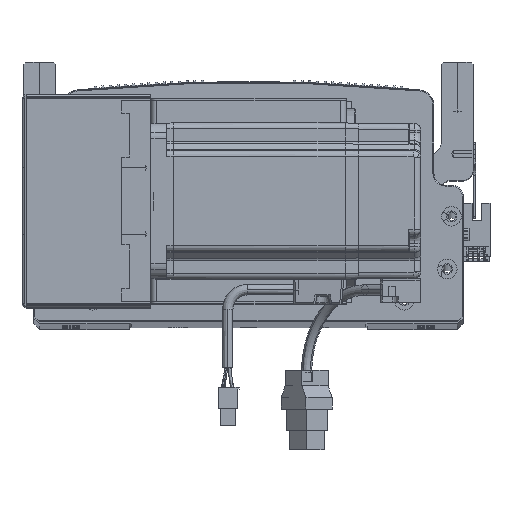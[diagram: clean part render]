
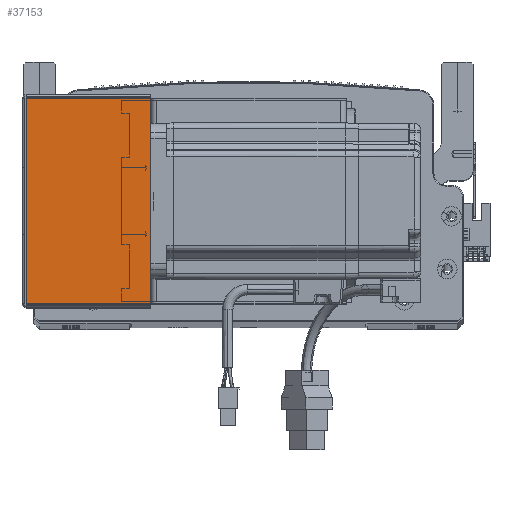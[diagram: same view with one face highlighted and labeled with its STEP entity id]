
A CAD part, top view. The second image highlights one B-rep face of the part: STEP entity #37153.
In plain terms, the highlighted planar face has unit normal (0, 0, 1) as drawn and (0, 0, -1) by its records, which use the part's own axes.
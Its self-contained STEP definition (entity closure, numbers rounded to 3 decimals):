
#248 = ORIENTED_EDGE ( 'NONE', *, *, #59672, .T. ) ;
#489 = DIRECTION ( 'NONE',  ( 0., -1., 0. ) ) ;
#2702 = CARTESIAN_POINT ( 'NONE',  ( 0., 0.707, -205.5 ) ) ;
#8278 = CARTESIAN_POINT ( 'NONE',  ( 64.5, 0.707, -205.5 ) ) ;
#13404 = EDGE_CURVE ( 'NONE', #21411, #25212, #47081, .T. ) ;
#13546 = CARTESIAN_POINT ( 'NONE',  ( 0.737, 105.293, -205.5 ) ) ;
#13981 = VECTOR ( 'NONE', #34855, 1000. ) ;
#18923 = CARTESIAN_POINT ( 'NONE',  ( 0., 0., -205.5 ) ) ;
#21411 = VERTEX_POINT ( 'NONE', #83418 ) ;
#22432 = LINE ( 'NONE', #62837, #36459 ) ;
#23680 = LINE ( 'NONE', #33947, #13981 ) ;
#24346 = VECTOR ( 'NONE', #85007, 1000. ) ;
#25212 = VERTEX_POINT ( 'NONE', #8278 ) ;
#26120 = DIRECTION ( 'NONE',  ( 0., 0., 1. ) ) ;
#29713 = DIRECTION ( 'NONE',  ( 0., -1., 0. ) ) ;
#33947 = CARTESIAN_POINT ( 'NONE',  ( 0., 105.293, -205.5 ) ) ;
#34855 = DIRECTION ( 'NONE',  ( 1., 0., 0. ) ) ;
#36459 = VECTOR ( 'NONE', #489, 1000. ) ;
#37153 = ADVANCED_FACE ( 'NONE', ( #87915 ), #75119, .F. ) ;
#38251 = LINE ( 'NONE', #56974, #40408 ) ;
#40408 = VECTOR ( 'NONE', #29713, 1000. ) ;
#47081 = LINE ( 'NONE', #2702, #24346 ) ;
#47982 = ORIENTED_EDGE ( 'NONE', *, *, #13404, .F. ) ;
#50589 = ORIENTED_EDGE ( 'NONE', *, *, #78463, .T. ) ;
#53950 = ORIENTED_EDGE ( 'NONE', *, *, #86406, .F. ) ;
#55447 = EDGE_LOOP ( 'NONE', ( #53950, #50589, #248, #47982 ) ) ;
#56974 = CARTESIAN_POINT ( 'NONE',  ( 0.737, 0., -205.5 ) ) ;
#58479 = AXIS2_PLACEMENT_3D ( 'NONE', #18923, #26120, #60919 ) ;
#59672 = EDGE_CURVE ( 'NONE', #61331, #25212, #22432, .T. ) ;
#60919 = DIRECTION ( 'NONE',  ( 1., 0., 0. ) ) ;
#61331 = VERTEX_POINT ( 'NONE', #77156 ) ;
#62837 = CARTESIAN_POINT ( 'NONE',  ( 64.5, 0., -205.5 ) ) ;
#70289 = VERTEX_POINT ( 'NONE', #13546 ) ;
#75119 = PLANE ( 'NONE',  #58479 ) ;
#77156 = CARTESIAN_POINT ( 'NONE',  ( 64.5, 105.293, -205.5 ) ) ;
#78463 = EDGE_CURVE ( 'NONE', #70289, #61331, #23680, .T. ) ;
#83418 = CARTESIAN_POINT ( 'NONE',  ( 0.737, 0.707, -205.5 ) ) ;
#85007 = DIRECTION ( 'NONE',  ( 1., 0., 0. ) ) ;
#86406 = EDGE_CURVE ( 'NONE', #70289, #21411, #38251, .T. ) ;
#87915 = FACE_OUTER_BOUND ( 'NONE', #55447, .T. ) ;
